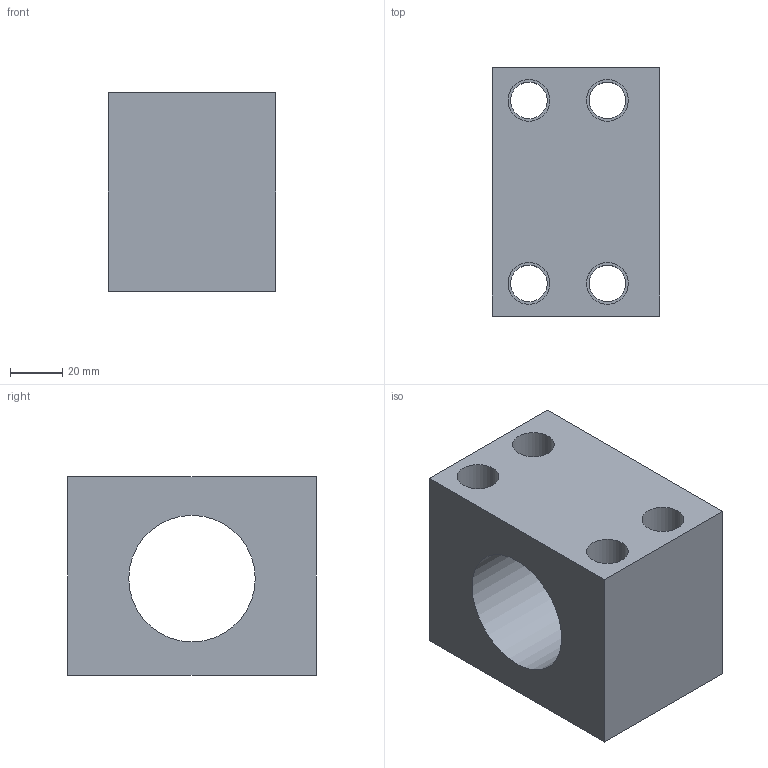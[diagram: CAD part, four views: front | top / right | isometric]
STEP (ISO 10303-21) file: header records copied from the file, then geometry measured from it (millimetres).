
FILE_DESCRIPTION(/* description */ (''),/* implementation_level */ '2;1');
FILE_NAME(/* name */ 'NH32A.stp',/* time_stamp */ '2017-08-19T10:39:15+08:00',/* author */ (''),/* organization */ (''),/* preprocessor_version */ 'ST-DEVELOPER v15',/* originating_system */ 'SIEMENS PLM Software NX 9.0',/* authorisation */ '');
FILE_SCHEMA (('CONFIG_CONTROL_DESIGN'));
Length unit declared in the file: millimetre
Products named in the file (1): NH32A
Bounding box: 64 x 95 x 76 mm (x, y, z)
Volume: 279287.4 mm3; surface area: 57360.1 mm2
Topology: 1 solids, 1 shells, 39 faces, 91 edges, 62 vertices
Faces by surface type: cylinder 19, plane 14, cone 6
Full cylindrical faces by diameter (mm): 4.2 x6, 14 x4, 16 x4, 22 x4, 48.4 x1
Entity records: 994 total; most frequent: DIRECTION 168, CARTESIAN_POINT 142, ORIENTED_EDGE 100, FACE_BOUND 86, EDGE_LOOP 82, AXIS2_PLACEMENT_3D 78, VERTEX_POINT 52, EDGE_CURVE 50
